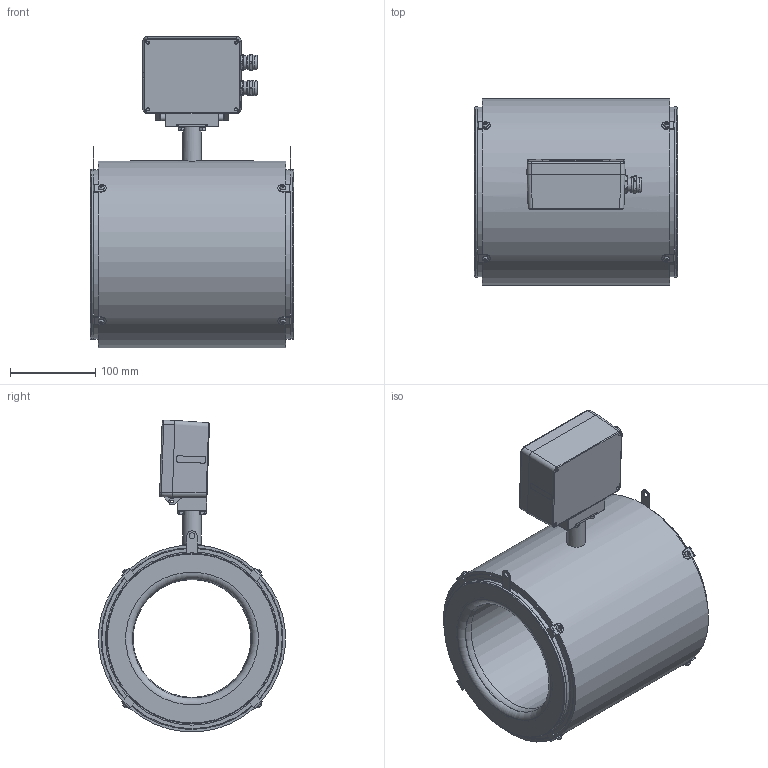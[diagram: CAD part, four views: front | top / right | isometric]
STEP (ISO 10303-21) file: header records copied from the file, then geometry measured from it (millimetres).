
FILE_DESCRIPTION(('STEP AP203'), '1');
FILE_NAME('Âçëåò ÝÌ ÏÐÎÔÈ DN150 Ñýíäâè÷', '', ('UNSPECIFIED'), ('UNSPECIFIED'), 'C3D Converter', 'C3D Toolkit', '');
FILE_SCHEMA(('CONFIG_CONTROL_DESIGN'));
Length unit declared in the file: millimetre
Products named in the file (1): ШКСД.407212.004-002-09
Bounding box: 238 x 218.49 x 364.92 mm (x, y, z)
Volume: 2230207.7 mm3; surface area: 970819.3 mm2
Topology: 4 solids, 13 shells, 1095 faces, 2686 edges, 1685 vertices
Faces by surface type: plane 598, cylinder 285, cone 93, bspline 68, torus 38, sphere 8, revolution 5
Full cylindrical faces by diameter (mm): 3.242 x18, 3.422 x2, 4 x10, 4.134 x1, 4.5 x10, 4.917 x2, 6 x4, 6.2 x2, 7 x10, 7.5 x4, 8.7 x2, 12 x4, 15 x4, 16 x8, 16.3 x2, 17.5 x4, 19 x2, 20.2 x1, 22 x1, 26 x2, 138 x1, 148 x2, 149 x1, 150 x1, 151 x2, 160 x3, 198 x1, 199 x3, 200 x2, 210 x1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
Entity records: 59561 total; most frequent: CARTESIAN_POINT 26268, DIRECTION 4890, ORIENTED_EDGE 4860, EDGE_CURVE 2436, AXIS2_PLACEMENT_3D 1834, VERTEX_POINT 1664, EDGE_LOOP 1454, LINE 1217
